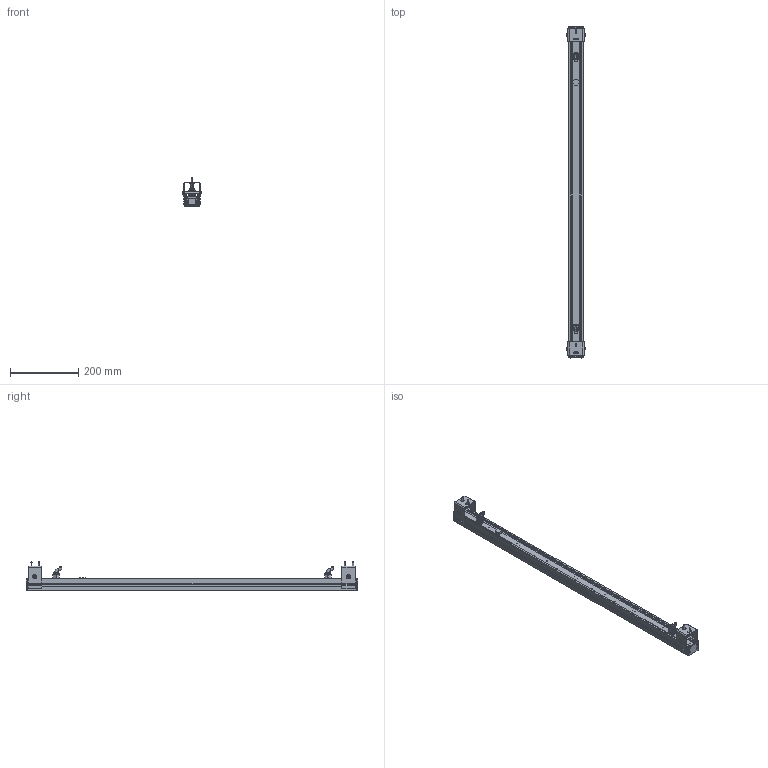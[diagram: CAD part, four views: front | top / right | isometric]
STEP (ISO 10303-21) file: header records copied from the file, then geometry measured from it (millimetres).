
FILE_DESCRIPTION((''),'2;1');
FILE_NAME('B6KD2457_ASM','2025-11-18T',('Administrator'),(''),'CREO PARAMETRIC BY PTC INC, 2015200','CREO PARAMETRIC BY PTC INC, 2015200','');
FILE_SCHEMA(('CONFIG_CONTROL_DESIGN'));
Length unit declared in the file: millimetre
Products named in the file (20): 6KE-A; PG9_U___M; ___J3; ___J1; ___J2; PG9___1_ASM; PG_______Y___ASM; 6K-_3D_2017_1_6_; 6K_56_1; 6K_LJB_24PCS_5; 6R_TJZJ_5; M3-22; 6K_LJB_ZJ_ASM_6_ASM; PRODUCT_88784_ANY_1_1; M3X6-YT_2; 6K_BL_1M_11; 6K-KKH; 6K-M4; 6K-M5; B6KD2457_ASM
Assembly tree (39 placements, depth 4):
  B6KD2457_ASM
    6KE-A
    PG_______Y___ASM  x2
      PG9_U___M
      PG9___1_ASM
        ___J3
        ___J1
        ___J2
    6K-_3D_2017_1_6_  x2
    6K_56_1  x2
    6K_LJB_ZJ_ASM_6_ASM  x4
      6K_LJB_24PCS_5
      6R_TJZJ_5
      M3-22
    PRODUCT_88784_ANY_1_1
    M3X6-YT_2  x8
    6K_BL_1M_11
    6K-KKH  x2
    6K-M4  x2
    6K-M5  x4
Bounding box: 53 x 973.51 x 83.8 mm (x, y, z)
Volume: 871612.3 mm3; surface area: 491277.5 mm2
Topology: 51 solids, 51 shells, 3482 faces, 8426 edges, 5294 vertices
Faces by surface type: plane 1678, cylinder 930, cone 478, extrusion 264, revolution 48, torus 40, bspline 28, sphere 16
Entity records: 50277 total; most frequent: CARTESIAN_POINT 19112, ORIENTED_EDGE 6376, DIRECTION 6106, EDGE_CURVE 3188, VECTOR 2196, LINE 2064, VERTEX_POINT 2054, AXIS2_PLACEMENT_3D 1949
